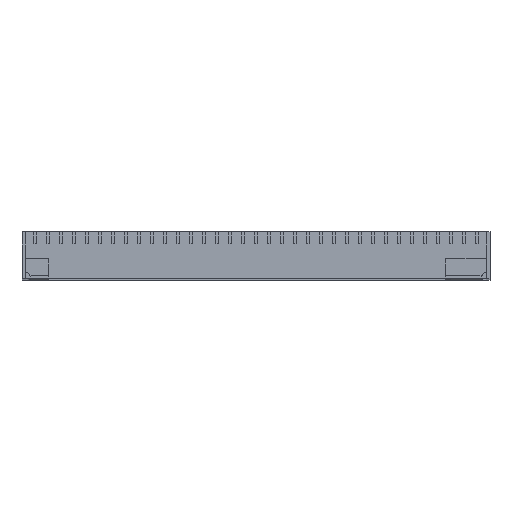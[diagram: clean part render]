
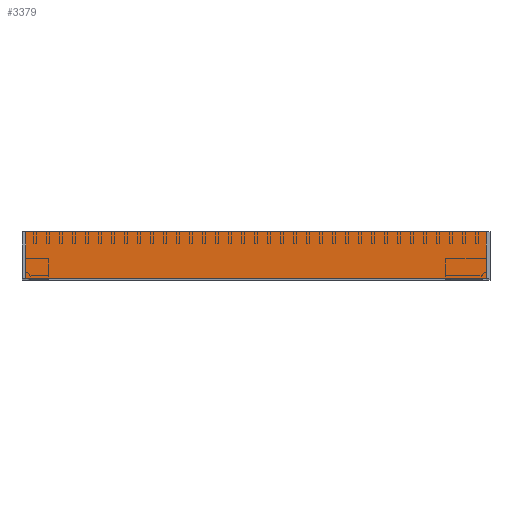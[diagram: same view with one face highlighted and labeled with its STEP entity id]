
A CAD part, top view. The second image highlights one B-rep face of the part: STEP entity #3379.
In plain terms, the highlighted planar face has unit normal (0, 0, 1).
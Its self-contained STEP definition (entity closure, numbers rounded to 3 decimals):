
#179 = LINE ( 'NONE', #5213, #5413 ) ;
#414 = AXIS2_PLACEMENT_3D ( 'NONE', #5220, #1697, #6639 ) ;
#609 = CARTESIAN_POINT ( 'NONE',  ( 330.766, 5.593, 3. ) ) ;
#888 = ORIENTED_EDGE ( 'NONE', *, *, #1718, .T. ) ;
#1697 = DIRECTION ( 'NONE',  ( 0., 0., 1. ) ) ;
#1718 = EDGE_CURVE ( 'NONE', #4114, #2737, #8797, .T. ) ;
#1730 = ORIENTED_EDGE ( 'NONE', *, *, #3554, .T. ) ;
#1831 = CARTESIAN_POINT ( 'NONE',  ( -63.234, 5.593, 3. ) ) ;
#1990 = CARTESIAN_POINT ( 'NONE',  ( -63.234, 45.593, 3. ) ) ;
#2322 = CARTESIAN_POINT ( 'NONE',  ( 330.766, 45.593, 3. ) ) ;
#2401 = DIRECTION ( 'NONE',  ( 1., 0., 0. ) ) ;
#2737 = VERTEX_POINT ( 'NONE', #3284 ) ;
#3284 = CARTESIAN_POINT ( 'NONE',  ( 330.766, 45.593, 3. ) ) ;
#3331 = FACE_OUTER_BOUND ( 'NONE', #4698, .T. ) ;
#3379 = ADVANCED_FACE ( 'NONE', ( #3331 ), #5934, .T. ) ;
#3554 = EDGE_CURVE ( 'NONE', #2737, #7550, #4326, .T. ) ;
#3683 = LINE ( 'NONE', #1990, #5775 ) ;
#3706 = ORIENTED_EDGE ( 'NONE', *, *, #4509, .T. ) ;
#3820 = ORIENTED_EDGE ( 'NONE', *, *, #7775, .T. ) ;
#4114 = VERTEX_POINT ( 'NONE', #609 ) ;
#4326 = LINE ( 'NONE', #5832, #5746 ) ;
#4464 = DIRECTION ( 'NONE',  ( -1., 0., 0. ) ) ;
#4509 = EDGE_CURVE ( 'NONE', #8440, #4114, #179, .T. ) ;
#4569 = CARTESIAN_POINT ( 'NONE',  ( -63.234, 45.593, 3. ) ) ;
#4698 = EDGE_LOOP ( 'NONE', ( #3820, #3706, #888, #1730 ) ) ;
#5213 = CARTESIAN_POINT ( 'NONE',  ( -63.234, 5.593, 3. ) ) ;
#5220 = CARTESIAN_POINT ( 'NONE',  ( -63.234, 5.593, 3. ) ) ;
#5241 = VECTOR ( 'NONE', #6575, 1000. ) ;
#5413 = VECTOR ( 'NONE', #2401, 1000. ) ;
#5746 = VECTOR ( 'NONE', #4464, 1000. ) ;
#5775 = VECTOR ( 'NONE', #6933, 1000. ) ;
#5832 = CARTESIAN_POINT ( 'NONE',  ( -63.234, 45.593, 3. ) ) ;
#5934 = PLANE ( 'NONE',  #414 ) ;
#6575 = DIRECTION ( 'NONE',  ( 0., 1., 0. ) ) ;
#6639 = DIRECTION ( 'NONE',  ( 1., 0., 0. ) ) ;
#6933 = DIRECTION ( 'NONE',  ( 0., -1., 0. ) ) ;
#7550 = VERTEX_POINT ( 'NONE', #4569 ) ;
#7775 = EDGE_CURVE ( 'NONE', #7550, #8440, #3683, .T. ) ;
#8440 = VERTEX_POINT ( 'NONE', #1831 ) ;
#8797 = LINE ( 'NONE', #2322, #5241 ) ;
